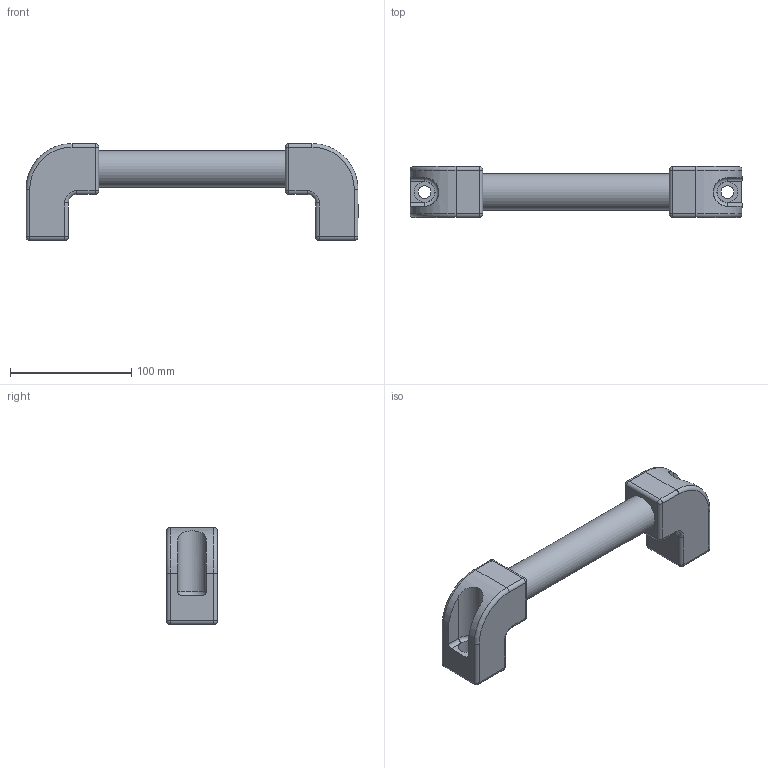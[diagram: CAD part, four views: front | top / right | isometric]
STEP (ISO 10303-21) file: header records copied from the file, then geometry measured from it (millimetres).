
FILE_DESCRIPTION( ('This file contains a STEP AP42 implementation' ,'as created by ZW3D STEP Interface translator.') ,'2;1' );
FILE_NAME( 'R30-250.stp' ,'26 817.123042', (''), ('ZWCAD Software Co.'), 'Version 1.0', 'ZW3D to STEP translator', '' );
FILE_SCHEMA(('AP242_MANAGED_MODEL_BASED_3D_ENGINEERING_MIM_LF { 1 0 10303 442 1 1 4 }'));
Length unit declared in the file: millimetre
Products named in the file (1): 0
Bounding box: 274 x 42 x 80 mm (x, y, z)
Volume: 251041 mm3; surface area: 78337.4 mm2
Topology: 3 solids, 3 shells, 104 faces, 216 edges, 122 vertices
Faces by surface type: cylinder 50, plane 28, sphere 16, torus 10
Full cylindrical faces by diameter (mm): 10.5 x2, 17 x2, 26 x1, 30 x3
Entity records: 2885 total; most frequent: DIRECTION 538, CARTESIAN_POINT 467, ORIENTED_EDGE 428, AXIS2_PLACEMENT_3D 219, EDGE_CURVE 214, VERTEX_POINT 120, CIRCLE 114, EDGE_LOOP 114
